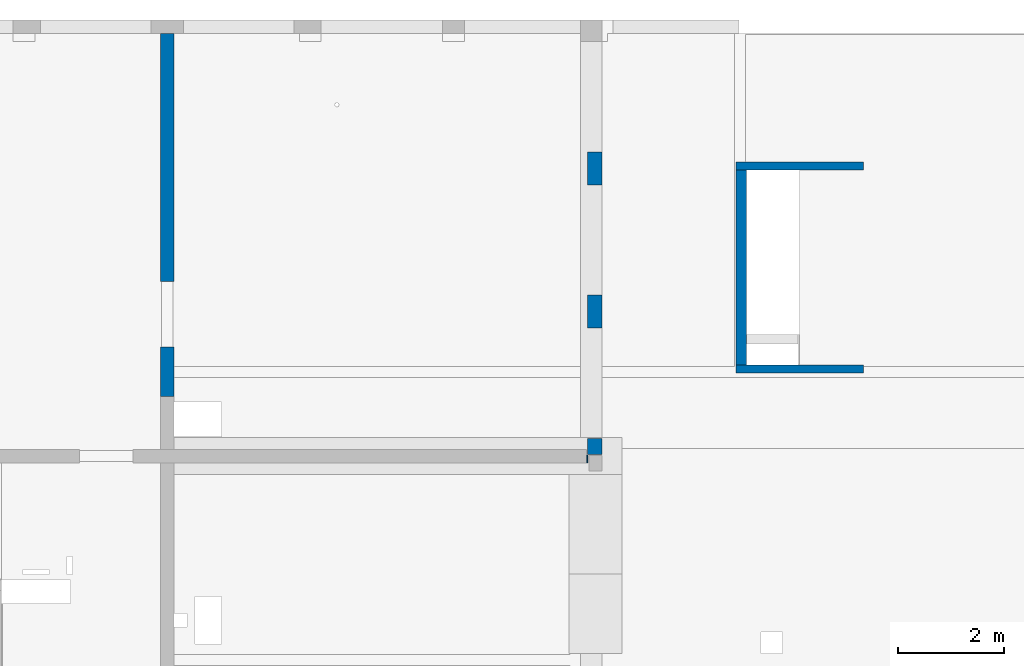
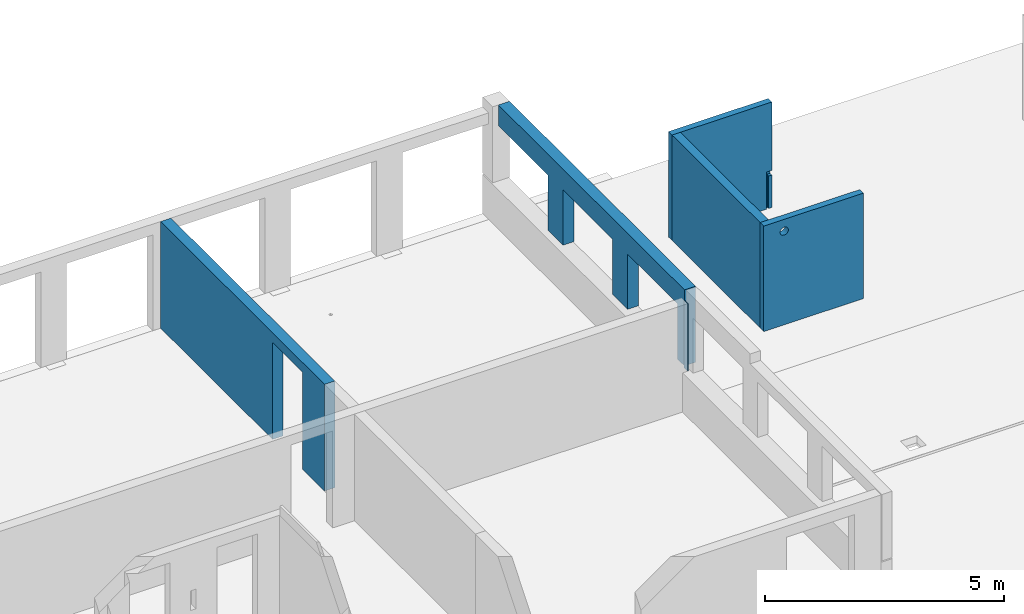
# One storey, part 20 of 36: 6 walls, 7 openings.
"""IFC2X3 building model written with IfcOpenShell, lengths in millimetres."""

from ifc_helpers import new_model, entity, si_unit, converted_unit, derived_unit, direction, frame, frame_2d, origin, origin_2d_with_axis, place, context, subcontext, project, spatial, polyline, rectangle, circle, extrude, clip, bounded_halfspace, material, layer, layer_set, layer_usage, type_object, element, save


model = new_model("IFC2X3")

# Units and contexts
model_context = context("Model", 3, precision=0.01, world=origin(), true_north=direction((6.12303176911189e-17, 1.0)))
body_context = subcontext(model_context, "Body", "Model", "MODEL_VIEW")
ifc_project = project(units=[si_unit("LENGTHUNIT", "METRE", prefix="MILLI"), si_unit("AREAUNIT", "SQUARE_METRE"), si_unit("VOLUMEUNIT", "CUBIC_METRE"), converted_unit("PLANEANGLEUNIT", "DEGREE", entity("IfcRatioMeasure", 0.0174532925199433), si_unit("PLANEANGLEUNIT", "RADIAN"), dimensions=[0, 0, 0, 0, 0, 0, 0]), si_unit("MASSUNIT", "GRAM", prefix="KILO"), derived_unit("MASSDENSITYUNIT", [(si_unit("MASSUNIT", "GRAM", prefix="KILO"), 1), (si_unit("LENGTHUNIT", "METRE"), -3)]), si_unit("TIMEUNIT", "SECOND"), si_unit("FREQUENCYUNIT", "HERTZ"), si_unit("THERMODYNAMICTEMPERATUREUNIT", "DEGREE_CELSIUS"), derived_unit("THERMALTRANSMITTANCEUNIT", [(si_unit("MASSUNIT", "GRAM", prefix="KILO"), 1), (si_unit("THERMODYNAMICTEMPERATUREUNIT", "KELVIN"), -1), (si_unit("TIMEUNIT", "SECOND"), -3)]), derived_unit("VOLUMETRICFLOWRATEUNIT", [(si_unit("LENGTHUNIT", "METRE"), 3), (si_unit("TIMEUNIT", "SECOND"), -1)]), si_unit("ELECTRICCURRENTUNIT", "AMPERE"), si_unit("ELECTRICVOLTAGEUNIT", "VOLT"), si_unit("POWERUNIT", "WATT"), si_unit("FORCEUNIT", "NEWTON", prefix="KILO"), si_unit("ILLUMINANCEUNIT", "LUX"), si_unit("LUMINOUSFLUXUNIT", "LUMEN"), si_unit("LUMINOUSINTENSITYUNIT", "CANDELA"), derived_unit("USERDEFINED", [(si_unit("MASSUNIT", "GRAM", prefix="KILO"), -1), (si_unit("LENGTHUNIT", "METRE"), -2), (si_unit("TIMEUNIT", "SECOND"), 3), (si_unit("LUMINOUSFLUXUNIT", "LUMEN"), 1)]), derived_unit("LINEARVELOCITYUNIT", [(si_unit("LENGTHUNIT", "METRE"), 1), (si_unit("TIMEUNIT", "SECOND"), -1)]), si_unit("PRESSUREUNIT", "PASCAL"), derived_unit("USERDEFINED", [(si_unit("LENGTHUNIT", "METRE"), -2), (si_unit("MASSUNIT", "GRAM", prefix="KILO"), 1), (si_unit("TIMEUNIT", "SECOND"), -2)])], contexts=[model_context])

# Site, building, storey
site_placement = place(None, origin())
site = spatial("IfcSite", under=ifc_project, at=site_placement, Name="Default", CompositionType="ELEMENT")
building_placement = place(site_placement, origin())
building = spatial("IfcBuilding", under=site, at=building_placement, Name="niet gebruiken", CompositionType="ELEMENT")
storey_placement = place(building_placement, frame((0.0, 0.0, 12600.0)))
storey = spatial("IfcBuildingStorey", under=building, at=storey_placement, Name="04 vierde verdieping", CompositionType="ELEMENT", Elevation=12600.0)

# Wall, opening
ifc_material_1 = material(Name="NLRS_f2_beton ihwg")
ifc_layer_1 = layer(ifc_material_1, 250.0)
ifc_layer_set_1 = layer_set([ifc_layer_1], Name="Basic Wall:NLRS_22.21_WA_beton ihwg d=250_gen")
ifc_layer_usage_1 = layer_usage(ifc_layer_set_1, "AXIS2", "NEGATIVE", 125.0)
wall_type_1 = type_object("IfcWallType", Name="Basic Wall:NLRS_22.21_WA_beton ihwg d=250_gen", PredefinedType="STANDARD", material=ifc_layer_set_1)
wall_1_placement = place(storey_placement, frame((48600.0, 53006.0, -90.0), z_axis=(0.0, 0.0, 1.0), x_axis=(0.0, -1.0, 0.0)))
wall_1 = element("IfcWallStandardCase", 1, at=wall_1_placement, inside=storey, type_object=wall_type_1, material=ifc_layer_usage_1, Name="Basic Wall:NLRS_22.21_WA_beton ihwg d=250_gen", ObjectType="Basic Wall:NLRS_22.21_WA_beton ihwg d=250_gen", context=body_context, shape_type="SweptSolid", body=[
    extrude(rectangle(XDim=6850.00000000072, YDim=249.999999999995, at=frame_2d((3425.00000000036, -1.10134124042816e-12), x_axis=(-1.0, 0.0))), origin(), (0.0, 0.0, 1.0), 2719.99999999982),
])
opening_1_placement = place(wall_1_placement, origin())
element("IfcOpeningElement", 2, at=opening_1_placement, cuts=wall_1, Name="Basic Wall:NLRS_22.21_WA_beton ihwg d=250_gen", ObjectType="Opening", context=body_context, shape_type="SweptSolid", body=[
    extrude(rectangle(XDim=2470.0, YDim=1240.0, at=frame_2d((0.0, 4.37694325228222e-12), x_axis=(1.0, 0.0))), frame((5300.0, -1649.0, 1235.0), z_axis=(0.0, 1.0, 0.0), x_axis=(0.0, 0.0, 1.0)), (0.0, 0.0, 1.0), 3048.0),
])

# Wall, openings
ifc_layer_2 = layer(ifc_material_1, 150.0)
ifc_layer_set_2 = layer_set([ifc_layer_2], Name="Basic Wall:NLRS_21.21_WA_beton ihwg d=150_gen")
ifc_layer_usage_2 = layer_usage(ifc_layer_set_2, "AXIS2", "POSITIVE", -75.0)
wall_type_2 = type_object("IfcWallType", Name="Basic Wall:NLRS_21.21_WA_beton ihwg d=150_gen", PredefinedType="STANDARD", material=ifc_layer_set_2)
wall_2_placement = place(storey_placement, frame((61730.0, 50501.0, -90.0), z_axis=(0.0, 0.0, 1.0), x_axis=(-1.0, 0.0, 0.0)))
wall_2 = element("IfcWallStandardCase", 3, at=wall_2_placement, inside=storey, type_object=wall_type_2, material=ifc_layer_usage_2, Name="Basic Wall:NLRS_21.21_WA_beton ihwg d=150_gen", ObjectType="Basic Wall:NLRS_21.21_WA_beton ihwg d=150_gen", context=body_context, shape_type="SweptSolid", body=[
    extrude(rectangle(XDim=2405.00000000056, YDim=150.000000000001, at=frame_2d((1202.50000000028, -4.9737991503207e-14), x_axis=(-1.0, 0.0))), origin(), (0.0, 0.0, 1.0), 2690.0),
])
opening_2_placement = place(wall_2_placement, origin())
element("IfcOpeningElement", 4, at=opening_2_placement, cuts=wall_2, Name="Basic Wall:NLRS_21.21_WA_beton ihwg d=150_gen", ObjectType="Recess", context=body_context, shape_type="SweptSolid", body=[
    extrude(rectangle(XDim=830.0, YDim=49.9999999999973, at=frame_2d((-1.08002495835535e-12, 0.0), x_axis=(1.0, 0.0))), frame((100.0, 35.0, 415.0), z_axis=(0.0, 1.0, 0.0), x_axis=(0.0, 0.0, -1.0)), (0.0, 0.0, 1.0), 40.0000000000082),
])
opening_3_placement = place(wall_2_placement, origin())
element("IfcOpeningElement", 5, at=opening_3_placement, cuts=wall_2, Name="Basic Wall:NLRS_21.21_WA_beton ihwg d=150_gen", ObjectType="Recess", context=body_context, shape_type="SweptSolid", body=[
    extrude(rectangle(XDim=120.000000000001, YDim=124.999999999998, at=frame_2d((-1.08357767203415e-12, 8.66151594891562e-12), x_axis=(1.0, 0.0))), frame((62.5000000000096, 0.0, 890.0), z_axis=(0.0, 1.0, 0.0), x_axis=(0.0, 0.0, -1.0)), (0.0, 0.0, 1.0), 75.0000000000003),
])

# Wall, opening
ifc_layer_usage_3 = layer_usage(ifc_layer_set_2, "AXIS2", "POSITIVE", -75.0)
wall_3_placement = place(storey_placement, frame((61730.0, 46671.0, -90.0), z_axis=(0.0, 0.0, 1.0), x_axis=(-1.0, 0.0, 0.0)))
wall_3 = element("IfcWallStandardCase", 6, at=wall_3_placement, inside=storey, type_object=wall_type_2, material=ifc_layer_usage_3, Name="Basic Wall:NLRS_21.21_WA_beton ihwg d=150_gen", ObjectType="Basic Wall:NLRS_21.21_WA_beton ihwg d=150_gen", context=body_context, shape_type="SweptSolid", body=[
    extrude(rectangle(XDim=2405.00000000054, YDim=150.000000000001, at=frame_2d((1202.50000000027, -4.9737991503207e-14), x_axis=(-1.0, 0.0))), origin(), (0.0, 0.0, 1.0), 2690.0),
])
opening_4_placement = place(wall_3_placement, origin())
element("IfcOpeningElement", 7, at=opening_4_placement, cuts=wall_3, Name="Basic Wall:NLRS_21.21_WA_beton ihwg d=150_gen", ObjectType="Opening", context=body_context, shape_type="SweptSolid", body=[
    extrude(circle(Radius=100.0, at=origin_2d_with_axis()), frame((1910.0, -75.0, 2390.0), z_axis=(0.0, 1.0, 0.0), x_axis=(1.0, 0.0, 0.0)), (0.0, 0.0, 1.0), 150.000000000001),
])

# Wall
ifc_layer_3 = layer(ifc_material_1, 200.0)
ifc_layer_set_3 = layer_set([ifc_layer_3], Name="Basic Wall:NLRS_21.21_WA_beton ihwg d=200_gen")
ifc_layer_usage_4 = layer_usage(ifc_layer_set_3, "AXIS2", "POSITIVE", -100.0)
wall_type_3 = type_object("IfcWallType", Name="Basic Wall:NLRS_21.21_WA_beton ihwg d=200_gen", PredefinedType="STANDARD", material=ifc_layer_set_3)
wall_4_placement = place(storey_placement, frame((59425.0, 50426.0, -90.0), z_axis=(0.0, 0.0, 1.0), x_axis=(0.0, -1.0, 0.0)))
element("IfcWallStandardCase", 8, at=wall_4_placement, inside=storey, type_object=wall_type_3, material=ifc_layer_usage_4, Name="Basic Wall:NLRS_21.21_WA_beton ihwg d=200_gen", ObjectType="Basic Wall:NLRS_21.21_WA_beton ihwg d=200_gen", context=body_context, shape_type="SweptSolid", body=[
    extrude(rectangle(XDim=3679.99999999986, YDim=200.000000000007, at=frame_2d((1839.99999999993, 1.16529008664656e-12), x_axis=(-1.0, 0.0))), origin(), (0.0, 0.0, 1.0), 2690.0),
])

# Wall, openings
ifc_material_2 = material(Name="NLRS_f2_beton prefab")
ifc_layer_4 = layer(ifc_material_2, 270.0)
ifc_layer_set_4 = layer_set([ifc_layer_4], Name="Basic Wall:NLRS_21.21_WA_beton prefab d=270_gen")
ifc_layer_usage_5 = layer_usage(ifc_layer_set_4, "AXIS2", "NEGATIVE", 135.0)
wall_type_4 = type_object("IfcWallType", Name="Basic Wall:NLRS_21.21_WA_beton prefab d=270_gen", PredefinedType="STANDARD", material=ifc_layer_set_4)
wall_5_placement = place(storey_placement, frame((56665.0, 52846.0, 940.0), z_axis=(0.0, 0.0, 1.0), x_axis=(0.0, -1.0, 0.0)))
wall_5 = element("IfcWallStandardCase", 9, at=wall_5_placement, inside=storey, type_object=wall_type_4, material=ifc_layer_usage_5, Name="Basic Wall:NLRS_21.21_WA_beton prefab d=270_gen", ObjectType="Basic Wall:NLRS_21.21_WA_beton prefab d=270_gen", context=body_context, shape_type="SweptSolid", body=[
    extrude(rectangle(XDim=7780.00000000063, YDim=270.000000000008, at=frame_2d((3890.00000000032, 0.0), x_axis=(-1.0, 0.0))), origin(), (0.0, 0.0, 1.0), 1940.0),
])
opening_5_placement = place(wall_5_placement, origin())
element("IfcOpeningElement", 10, at=opening_5_placement, cuts=wall_5, Name="Basic Wall:NLRS_21.21_WA_beton prefab d=270_gen", ObjectType="Opening", context=body_context, shape_type="SweptSolid", body=[
    extrude(rectangle(XDim=1420.0, YDim=2080.0, at=frame_2d((8.64019966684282e-12, 0.0), x_axis=(0.0, 1.0))), frame((1040.0, -1389.0, 700.0), z_axis=(0.0, 1.0, 0.0), x_axis=(-1.0, 0.0, 0.0)), (0.0, 0.0, 1.0), 3048.0),
])
opening_6_placement = place(wall_5_placement, origin())
element("IfcOpeningElement", 11, at=opening_6_placement, cuts=wall_5, Name="Basic Wall:NLRS_21.21_WA_beton prefab d=270_gen", ObjectType="Opening", context=body_context, shape_type="SweptSolid", body=[
    extrude(rectangle(XDim=1420.0, YDim=2080.0, at=frame_2d((0.0, 0.0), x_axis=(0.0, 1.0))), frame((3740.0, -1389.0, 700.0), z_axis=(0.0, 1.0, 0.0), x_axis=(-1.0, 0.0, 0.0)), (0.0, 0.0, 1.0), 3048.0),
])
opening_7_placement = place(wall_5_placement, origin())
element("IfcOpeningElement", 12, at=opening_7_placement, cuts=wall_5, Name="Basic Wall:NLRS_21.21_WA_beton prefab d=270_gen", ObjectType="Opening", context=body_context, shape_type="SweptSolid", body=[
    extrude(rectangle(XDim=1420.0, YDim=2080.0, at=frame_2d((0.0, 0.0), x_axis=(0.0, 1.0))), frame((6440.0, -1389.0, 700.0), z_axis=(0.0, 1.0, 0.0), x_axis=(-1.0, 0.0, 0.0)), (0.0, 0.0, 1.0), 3048.0),
])

# Wall
ifc_layer_5 = layer(ifc_material_1, 140.0)
ifc_layer_set_5 = layer_set([ifc_layer_5], Name="Basic Wall:NLRS_22.21_WA_beton ihwg d=140_gen")
ifc_layer_usage_6 = layer_usage(ifc_layer_set_5, "AXIS2", "NEGATIVE", 70.0)
wall_type_5 = type_object("IfcWallType", Name="Basic Wall:NLRS_22.21_WA_beton ihwg d=140_gen", PredefinedType="STANDARD", material=ifc_layer_set_5)
wall_6_placement = place(storey_placement, frame((56510.0, 44976.0, 910.0)))
element("IfcWallStandardCase", 13, at=wall_6_placement, inside=storey, type_object=wall_type_5, material=ifc_layer_usage_6, Name="Basic Wall:NLRS_22.21_WA_beton ihwg d=140_gen", ObjectType="Basic Wall:NLRS_22.21_WA_beton ihwg d=140_gen", context=body_context, shape_type="Clipping", body=[
    clip(extrude(rectangle(XDim=19.9999999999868, YDim=140.000000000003, at=frame_2d((9.9999999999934, 0.0), x_axis=(-1.0, 0.0))), origin(), (0.0, 0.0, 1.0), 1719.99999999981), bounded_halfspace(frame((0.0, -70.0, 0.0), z_axis=(1.0, 0.0, 0.0), x_axis=(0.0, 1.0, 0.0)), True, frame((0.0, -70.0, 0.0), z_axis=(1.0, 0.0, 0.0), x_axis=(0.0, 1.0, 0.0)), polyline([(0.0, 0.0), (140.0, 0.0), (140.0, 1720.0), (0.0, 1720.0), (0.0, 0.0)]))),
])

save(model, "model.ifc")
